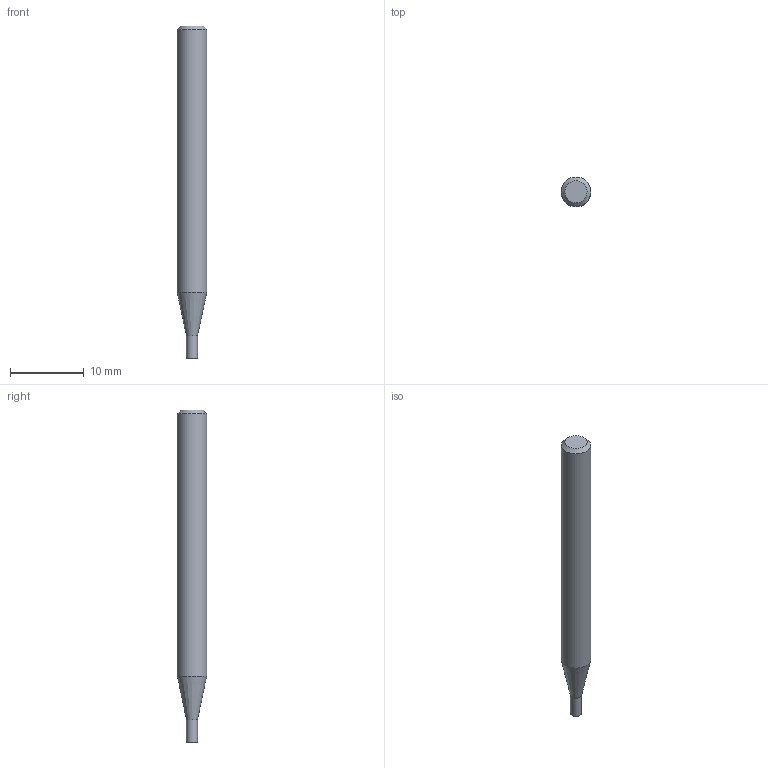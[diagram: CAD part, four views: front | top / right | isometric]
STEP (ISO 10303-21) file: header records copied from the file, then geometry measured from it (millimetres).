
FILE_DESCRIPTION((''),'2;1');
FILE_NAME('C:\Users\nsx150\AppData\Local\Temp\Mastercam 2021\E36A1X9CCL\TEMP.step','2023-04-21T15:12:19',(''),(''),'STEP Write','Mastercam 2021 ... CNC Software, Inc.','');
FILE_SCHEMA(('AUTOMOTIVE_DESIGN'));
Length unit declared in the file: millimetre
Products named in the file (1): None
Bounding box: 4 x 4 x 45 mm (x, y, z)
Volume: 495.1 mm3; surface area: 533.8 mm2
Topology: 2 solids, 2 shells, 8 faces, 10 edges, 6 vertices
Faces by surface type: plane 4, cylinder 2, cone 2
Full cylindrical faces by diameter (mm): 1.5 x1, 4 x1
Entity records: 190 total; most frequent: DIRECTION 32, CARTESIAN_POINT 22, AXIS2_PLACEMENT_3D 16, ORIENTED_EDGE 12, EDGE_LOOP 12, STYLED_ITEM 11, ADVANCED_FACE 8, VERTEX_POINT 6
